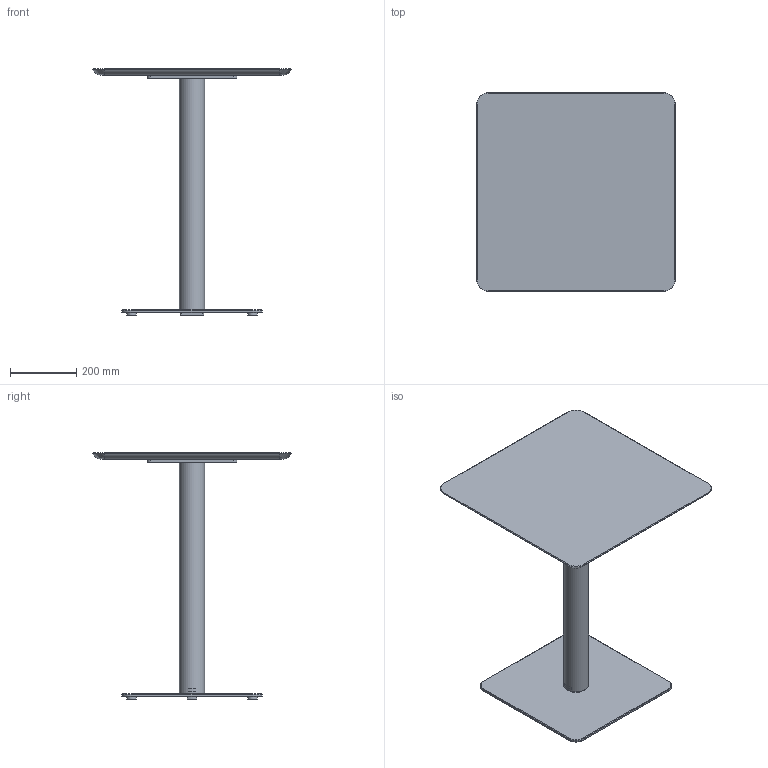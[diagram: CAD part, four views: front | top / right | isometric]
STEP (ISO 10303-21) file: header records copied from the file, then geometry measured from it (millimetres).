
FILE_DESCRIPTION( ('This file contains a STEP AP42 implementation' ,'as created by ZW3D STEP Interface translator.') ,'2;1' );
FILE_NAME( 'Henri - B_Carré - F3 - M3 - 600 x 600 x 750.stp' ,'24 912.17 910', (''), ('ZWCAD Software Co.'), 'Version 1.0', 'ZW3D to STEP translator', '' );
FILE_SCHEMA(('AUTOMOTIVE_DESIGN { 1 0 10303 214 1 1 1 1 }'));
Length unit declared in the file: millimetre
Products named in the file (14): 0; PIED BISTROT PARAMETRIQUE_; COLONNE ACIER Ø76 V.02_; TUB-D076-02_; PLA-R76B-01_; CROIX ACIER 370 V.02_; CRX-X370-02_; SOCLE ACIER L 425x425 V.02_; SCL-R425-02_; PLA-R30A-01_; PLA-R30A-01; WUERTH 0276063020 Euro-screw 6.3x2 Verzinkt_; PLATEAU BISTROT PARAMETRIQUE_; insert_m6_13_
Assembly tree (22 placements, depth 3):
  0
  PIED BISTROT PARAMETRIQUE_
    COLONNE ACIER Ø76 V.02_
      TUB-D076-02_
      PLA-R76B-01_  x2
    CROIX ACIER 370 V.02_
      CRX-X370-02_
    SOCLE ACIER L 425x425 V.02_
      SCL-R425-02_
      PLA-R30A-01_
      PLA-R30A-01  x3
    WUERTH 0276063020 Euro-screw 6.3x2 Verzinkt_
    PLATEAU BISTROT PARAMETRIQUE_
      insert_m6_13_  x8
Bounding box: 600 x 600 x 744 mm (x, y, z)
Volume: 9199252.8 mm3; surface area: 1629386.4 mm2
Topology: 19 solids, 19 shells, 537 faces, 1310 edges, 822 vertices
Faces by surface type: plane 258, bspline 125, cylinder 102, cone 51, torus 1
Full cylindrical faces by diameter (mm): 4.88 x1, 6 x8, 6.3 x1, 8 x45, 12 x2, 14 x2, 30 x4, 72 x1, 76 x1
Entity records: 12340 total; most frequent: CARTESIAN_POINT 3434, ORIENTED_EDGE 1624, DIRECTION 1519, EDGE_CURVE 812, VERTEX_POINT 518, AXIS2_PLACEMENT_3D 507, VECTOR 505, LINE 505
